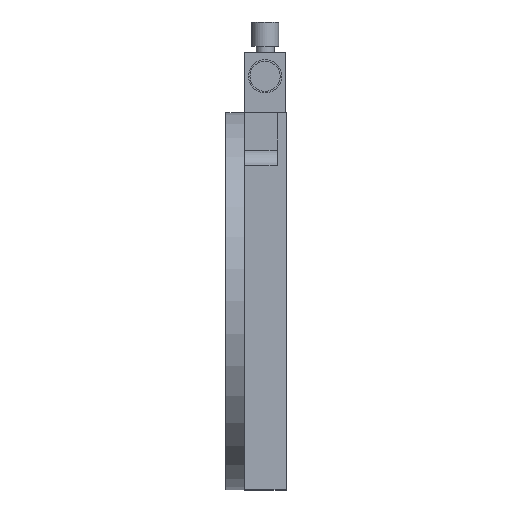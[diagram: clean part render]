
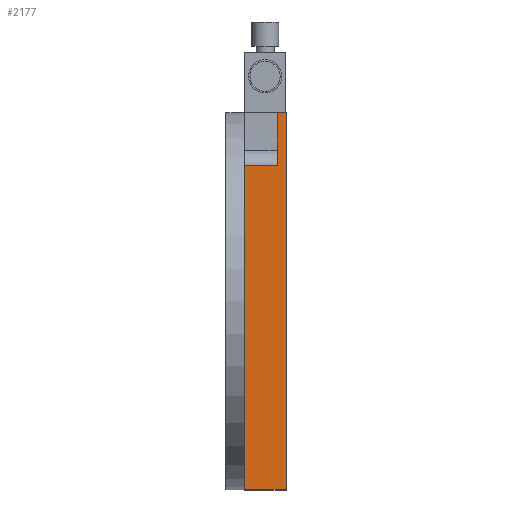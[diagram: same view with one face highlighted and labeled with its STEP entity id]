
A CAD part, left-side view. The second image highlights one B-rep face of the part: STEP entity #2177.
In plain terms, the highlighted planar face has unit normal (-1, 0, 0).
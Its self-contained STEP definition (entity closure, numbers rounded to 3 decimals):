
#36 = VECTOR ( 'NONE', #2922, 1000. ) ;
#188 = ORIENTED_EDGE ( 'NONE', *, *, #5287, .T. ) ;
#410 = CARTESIAN_POINT ( 'NONE',  ( -62.5, -45., 3. ) ) ;
#505 = EDGE_CURVE ( 'NONE', #3031, #3908, #3328, .T. ) ;
#601 = CARTESIAN_POINT ( 'NONE',  ( -62.5, 62.5, 0. ) ) ;
#665 = LINE ( 'NONE', #2289, #696 ) ;
#696 = VECTOR ( 'NONE', #1888, 1000. ) ;
#700 = ORIENTED_EDGE ( 'NONE', *, *, #5289, .F. ) ;
#722 = FACE_OUTER_BOUND ( 'NONE', #3806, .T. ) ;
#759 = CARTESIAN_POINT ( 'NONE',  ( -62.5, -62.5, 13.8 ) ) ;
#776 = VECTOR ( 'NONE', #1236, 1000. ) ;
#858 = LINE ( 'NONE', #759, #4283 ) ;
#913 = CARTESIAN_POINT ( 'NONE',  ( -62.5, -62.5, 0. ) ) ;
#1093 = DIRECTION ( 'NONE',  ( 0., -1., 0. ) ) ;
#1149 = CARTESIAN_POINT ( 'NONE',  ( -62.5, -62.5, 13.8 ) ) ;
#1236 = DIRECTION ( 'NONE',  ( 0., -1., 0. ) ) ;
#1262 = CARTESIAN_POINT ( 'NONE',  ( -62.5, 62.5, 13.8 ) ) ;
#1287 = EDGE_CURVE ( 'NONE', #3102, #4649, #858, .T. ) ;
#1406 = ORIENTED_EDGE ( 'NONE', *, *, #505, .T. ) ;
#1409 = VERTEX_POINT ( 'NONE', #410 ) ;
#1426 = LINE ( 'NONE', #1483, #776 ) ;
#1483 = CARTESIAN_POINT ( 'NONE',  ( -62.5, -62.5, 3. ) ) ;
#1493 = LINE ( 'NONE', #4763, #3693 ) ;
#1637 = VECTOR ( 'NONE', #5108, 1000. ) ;
#1665 = ORIENTED_EDGE ( 'NONE', *, *, #5211, .T. ) ;
#1888 = DIRECTION ( 'NONE',  ( 0., -1., 0. ) ) ;
#1954 = ORIENTED_EDGE ( 'NONE', *, *, #1287, .F. ) ;
#2177 = ADVANCED_FACE ( 'NONE', ( #722 ), #3261, .F. ) ;
#2289 = CARTESIAN_POINT ( 'NONE',  ( -62.5, -62.5, 0. ) ) ;
#2376 = DIRECTION ( 'NONE',  ( 0., 1., 0. ) ) ;
#2753 = CARTESIAN_POINT ( 'NONE',  ( -62.5, -45., 3. ) ) ;
#2876 = CARTESIAN_POINT ( 'NONE',  ( -62.5, 62.5, 13.8 ) ) ;
#2922 = DIRECTION ( 'NONE',  ( 0., 0., -1. ) ) ;
#3031 = VERTEX_POINT ( 'NONE', #2876 ) ;
#3102 = VERTEX_POINT ( 'NONE', #3704 ) ;
#3261 = PLANE ( 'NONE',  #3861 ) ;
#3328 = LINE ( 'NONE', #1262, #36 ) ;
#3458 = CARTESIAN_POINT ( 'NONE',  ( -62.5, -45., 13.8 ) ) ;
#3693 = VECTOR ( 'NONE', #1093, 1000. ) ;
#3704 = CARTESIAN_POINT ( 'NONE',  ( -62.5, -62.5, 3. ) ) ;
#3806 = EDGE_LOOP ( 'NONE', ( #5083, #1665, #700, #1406, #188, #1954 ) ) ;
#3861 = AXIS2_PLACEMENT_3D ( 'NONE', #1149, #3993, #2376 ) ;
#3908 = VERTEX_POINT ( 'NONE', #601 ) ;
#3993 = DIRECTION ( 'NONE',  ( 1., 0., 0. ) ) ;
#4083 = DIRECTION ( 'NONE',  ( 0., 0., -1. ) ) ;
#4283 = VECTOR ( 'NONE', #4083, 1000. ) ;
#4308 = EDGE_CURVE ( 'NONE', #1409, #3102, #1426, .T. ) ;
#4649 = VERTEX_POINT ( 'NONE', #913 ) ;
#4763 = CARTESIAN_POINT ( 'NONE',  ( -62.5, -62.5, 13.8 ) ) ;
#4821 = LINE ( 'NONE', #2753, #1637 ) ;
#5013 = VERTEX_POINT ( 'NONE', #3458 ) ;
#5083 = ORIENTED_EDGE ( 'NONE', *, *, #4308, .F. ) ;
#5108 = DIRECTION ( 'NONE',  ( 0., 0., 1. ) ) ;
#5211 = EDGE_CURVE ( 'NONE', #1409, #5013, #4821, .T. ) ;
#5287 = EDGE_CURVE ( 'NONE', #3908, #4649, #665, .T. ) ;
#5289 = EDGE_CURVE ( 'NONE', #3031, #5013, #1493, .T. ) ;
